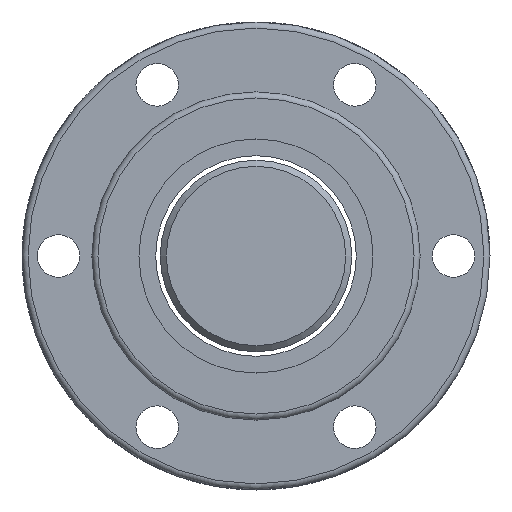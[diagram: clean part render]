
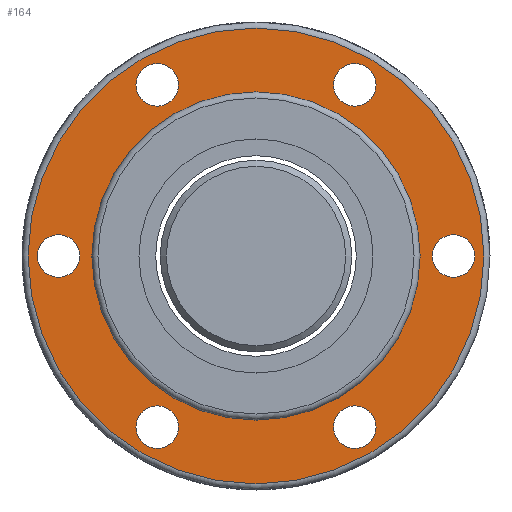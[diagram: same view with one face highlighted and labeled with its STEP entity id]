
A CAD part, left-side view. The second image highlights one B-rep face of the part: STEP entity #164.
In plain terms, the highlighted planar face has unit normal (-1, 0, 0).
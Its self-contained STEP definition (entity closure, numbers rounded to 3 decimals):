
#116=PLANE('',#698);
#135=FACE_OUTER_BOUND('',#327,.T.);
#164=ADVANCED_FACE('',(#238,#239,#240,#241,#242,#243,#135,#244),#116,.F.);
#238=FACE_BOUND('',#321,.T.);
#239=FACE_BOUND('',#322,.T.);
#240=FACE_BOUND('',#323,.T.);
#241=FACE_BOUND('',#324,.T.);
#242=FACE_BOUND('',#325,.T.);
#243=FACE_BOUND('',#326,.T.);
#244=FACE_BOUND('',#328,.T.);
#321=EDGE_LOOP('',(#429));
#322=EDGE_LOOP('',(#430));
#323=EDGE_LOOP('',(#431));
#324=EDGE_LOOP('',(#432));
#325=EDGE_LOOP('',(#433));
#326=EDGE_LOOP('',(#434));
#327=EDGE_LOOP('',(#435));
#328=EDGE_LOOP('',(#436));
#429=ORIENTED_EDGE('',*,*,#562,.T.);
#430=ORIENTED_EDGE('',*,*,#563,.T.);
#431=ORIENTED_EDGE('',*,*,#564,.T.);
#432=ORIENTED_EDGE('',*,*,#565,.T.);
#433=ORIENTED_EDGE('',*,*,#566,.T.);
#434=ORIENTED_EDGE('',*,*,#567,.T.);
#435=ORIENTED_EDGE('',*,*,#561,.F.);
#436=ORIENTED_EDGE('',*,*,#568,.T.);
#507=VERTEX_POINT('',#1011);
#508=VERTEX_POINT('',#1014);
#509=VERTEX_POINT('',#1016);
#510=VERTEX_POINT('',#1018);
#511=VERTEX_POINT('',#1020);
#512=VERTEX_POINT('',#1022);
#513=VERTEX_POINT('',#1024);
#514=VERTEX_POINT('',#1026);
#561=EDGE_CURVE('',#507,#507,#615,.T.);
#562=EDGE_CURVE('',#508,#508,#616,.T.);
#563=EDGE_CURVE('',#509,#509,#617,.T.);
#564=EDGE_CURVE('',#510,#510,#618,.T.);
#565=EDGE_CURVE('',#511,#511,#619,.T.);
#566=EDGE_CURVE('',#512,#512,#620,.T.);
#567=EDGE_CURVE('',#513,#513,#621,.T.);
#568=EDGE_CURVE('',#514,#514,#622,.T.);
#615=CIRCLE('',#689,75.);
#616=CIRCLE('',#691,7.);
#617=CIRCLE('',#692,7.);
#618=CIRCLE('',#693,7.);
#619=CIRCLE('',#694,7.);
#620=CIRCLE('',#695,7.);
#621=CIRCLE('',#696,7.);
#622=CIRCLE('',#697,54.);
#689=AXIS2_PLACEMENT_3D('',#1010,#838,#839);
#691=AXIS2_PLACEMENT_3D('',#1013,#842,#843);
#692=AXIS2_PLACEMENT_3D('',#1015,#844,#845);
#693=AXIS2_PLACEMENT_3D('',#1017,#846,#847);
#694=AXIS2_PLACEMENT_3D('',#1019,#848,#849);
#695=AXIS2_PLACEMENT_3D('',#1021,#850,#851);
#696=AXIS2_PLACEMENT_3D('',#1023,#852,#853);
#697=AXIS2_PLACEMENT_3D('',#1025,#854,#855);
#698=AXIS2_PLACEMENT_3D('',#1027,#856,#857);
#838=DIRECTION('',(1.,0.,0.));
#839=DIRECTION('',(0.,1.,0.));
#842=DIRECTION('',(1.,0.,0.));
#843=DIRECTION('',(0.,1.,0.));
#844=DIRECTION('',(1.,0.,0.));
#845=DIRECTION('',(0.,1.,0.));
#846=DIRECTION('',(1.,0.,0.));
#847=DIRECTION('',(0.,1.,0.));
#848=DIRECTION('',(1.,0.,0.));
#849=DIRECTION('',(0.,1.,0.));
#850=DIRECTION('',(1.,0.,0.));
#851=DIRECTION('',(0.,1.,0.));
#852=DIRECTION('',(1.,0.,0.));
#853=DIRECTION('',(0.,1.,0.));
#854=DIRECTION('',(1.,0.,0.));
#855=DIRECTION('',(0.,1.,0.));
#856=DIRECTION('',(1.,0.,0.));
#857=DIRECTION('',(0.,1.,0.));
#1010=CARTESIAN_POINT('',(-47.,0.,0.));
#1011=CARTESIAN_POINT('',(-47.,75.,0.));
#1013=CARTESIAN_POINT('',(-47.,32.5,-56.292));
#1014=CARTESIAN_POINT('',(-47.,39.5,-56.292));
#1015=CARTESIAN_POINT('',(-47.,-32.5,-56.292));
#1016=CARTESIAN_POINT('',(-47.,-25.5,-56.292));
#1017=CARTESIAN_POINT('',(-47.,-65.,0.));
#1018=CARTESIAN_POINT('',(-47.,-58.,0.));
#1019=CARTESIAN_POINT('',(-47.,-32.5,56.292));
#1020=CARTESIAN_POINT('',(-47.,-25.5,56.292));
#1021=CARTESIAN_POINT('',(-47.,32.5,56.292));
#1022=CARTESIAN_POINT('',(-47.,39.5,56.292));
#1023=CARTESIAN_POINT('',(-47.,65.,0.));
#1024=CARTESIAN_POINT('',(-47.,72.,0.));
#1025=CARTESIAN_POINT('',(-47.,0.,0.));
#1026=CARTESIAN_POINT('',(-47.,54.,0.));
#1027=CARTESIAN_POINT('',(-47.,64.5,0.));
